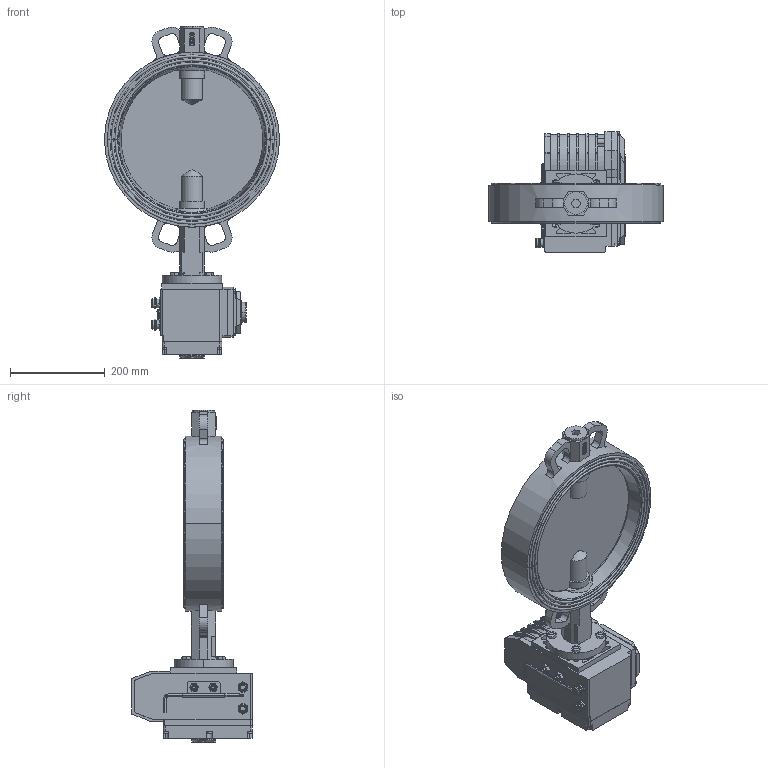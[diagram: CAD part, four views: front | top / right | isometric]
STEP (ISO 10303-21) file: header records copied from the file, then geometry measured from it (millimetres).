
FILE_DESCRIPTION((''),'2;1');
FILE_NAME('VBS_EAR_T_ASM','2025-02-22T',('AMD'),(''),'PRO/ENGINEER BY PARAMETRIC TECHNOLOGY CORPORATION, 2008020','PRO/ENGINEER BY PARAMETRIC TECHNOLOGY CORPORATION, 2008020','');
FILE_SCHEMA(('CONFIG_CONTROL_DESIGN'));
Length unit declared in the file: millimetre
Products named in the file (24): KORPUS; REZ; DISK; SHTIR_1; ZAGLUSHKA; O-RING; SHTIR_2; SHAIBA_RAZREZ; SHAIBA; KOLCO_45_GOST13943; VTULKA; MANZET_REZ; SB_ASM; B-7798-M10-30; DET_1; V-11738-M5; V-11738-M4; DET_2; KREPLENIE; KLUCH; DET_3; G-5915-M10; ELECTROPRIVOD_ASM; VBS_EAR_T_ASM
Assembly tree (47 placements, depth 3):
  VBS_EAR_T_ASM
    SB_ASM
      KORPUS
      REZ
      DISK
      SHTIR_1
      ZAGLUSHKA
      O-RING  x2
      SHTIR_2
      SHAIBA_RAZREZ
      SHAIBA  x2
      KOLCO_45_GOST13943
      VTULKA  x5
      MANZET_REZ
    B-7798-M10-30  x4
    ELECTROPRIVOD_ASM
      DET_1
      V-11738-M5  x12
      V-11738-M4  x4
      DET_2
      KREPLENIE
      KLUCH
      DET_3
      G-5915-M10  x2
Bounding box: 370 x 255 x 701.5 mm (x, y, z)
Volume: 9477540.6 mm3; surface area: 1292236.2 mm2
Topology: 45 solids, 82 shells, 1802 faces, 4625 edges, 3037 vertices
Faces by surface type: plane 1199, cylinder 475, cone 90, torus 38
Entity records: 46111 total; most frequent: CARTESIAN_POINT 8529, DIRECTION 7804, ORIENTED_EDGE 7578, EDGE_CURVE 3829, VECTOR 2852, LINE 2852, VERTEX_POINT 2523, AXIS2_PLACEMENT_3D 2476
